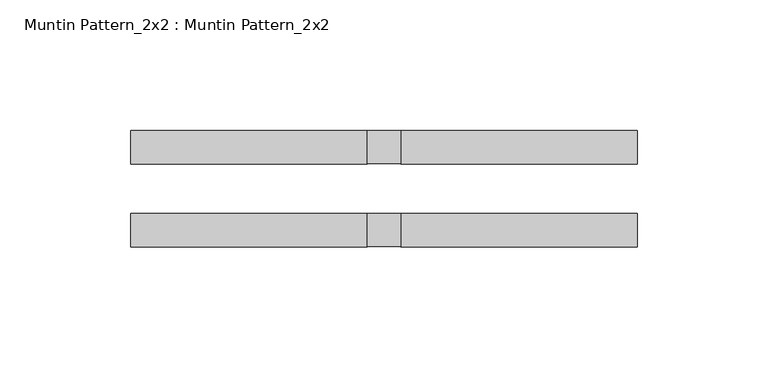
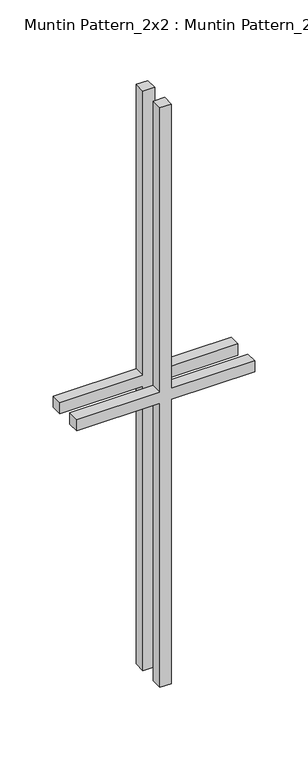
"""IFC4 building model written with IfcOpenShell, lengths in millimetres: proxy geometry, Muntin Pattern_2x2 : Muntin Pattern_2x2."""

from ifc_helpers import new_model, si_unit, frame, origin, place, context, project, spatial, polyline, outline, extrude, source, transform, mapped, element, save


def muntin_pattern_2x2_muntin_pattern_2x2_8981647c(model_context):
    return source(origin(), model_context, "Body", "SweptSolid", [
        extrude(outline(polyline([(339.725, -6.35), (339.725, -96.8375), (327.025, -96.8375), (327.025, -6.35), (0.0, -6.35), (0.0, 6.35), (327.025, 6.35), (327.025, 96.8375), (339.725, 96.8375), (339.725, 6.35), (666.75, 6.35), (666.75, -6.35), (339.725, -6.35)])), frame((0.0, 9.525, 0.0), z_axis=(0.0, 1.0, 0.0), x_axis=(0.0, 0.0, 1.0)), (0.0, 0.0, 1.0), 12.7),
        extrude(outline(polyline([(339.725, -6.35), (339.725, -96.8375), (327.025, -96.8375), (327.025, -6.35), (0.0, -6.35), (0.0, 6.35), (327.025, 6.35), (327.025, 96.8375), (339.725, 96.8375), (339.725, 6.35), (666.75, 6.35), (666.75, -6.35), (339.725, -6.35)])), frame((0.0, -22.225, 0.0), z_axis=(0.0, 1.0, 0.0), x_axis=(0.0, 0.0, 1.0)), (0.0, 0.0, 1.0), 12.7),
    ])


if __name__ == "__main__":
    model = new_model("IFC4")
    model_context = context("Model", 3, world=origin())
    ifc_project = project(units=[si_unit("LENGTHUNIT", "METRE", prefix="MILLI")], contexts=[model_context])
    site = spatial("IfcSite", under=ifc_project)
    building = spatial("IfcBuilding", under=site)
    placement = place(None, origin())
    muntin_pattern_2x2_muntin_pattern_2x2_shape = muntin_pattern_2x2_muntin_pattern_2x2_8981647c(model_context)
    element("IfcBuildingElementProxy", 1, Name="Muntin Pattern_2x2 : Muntin Pattern_2x2", ObjectType="Muntin Pattern_2x2 : Muntin Pattern_2x2", at=placement, inside=building, context=model_context, shape_type="MappedRepresentation", body=[
        mapped(muntin_pattern_2x2_muntin_pattern_2x2_shape, transform((0.0, 0.0, 0.0), x_axis=(1.0, 0.0, 0.0), y_axis=(0.0, 1.0, 0.0), z_axis=(0.0, 0.0, 1.0))),
    ])
    save(model, "model.ifc")
